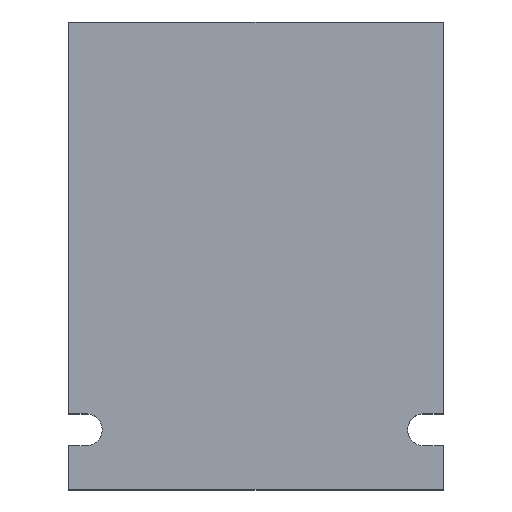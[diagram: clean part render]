
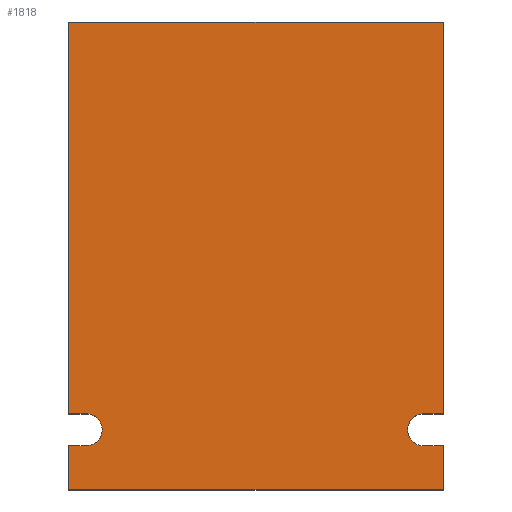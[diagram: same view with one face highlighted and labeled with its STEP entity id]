
A CAD part, top view. The second image highlights one B-rep face of the part: STEP entity #1818.
In plain terms, the highlighted planar face has unit normal (0, 0, 1).
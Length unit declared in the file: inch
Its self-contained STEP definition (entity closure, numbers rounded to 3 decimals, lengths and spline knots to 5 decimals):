
#50=CARTESIAN_POINT('',(1.801,-4.38,0.75));
#51=DIRECTION('',(0.,0.,-1.));
#52=DIRECTION('',(0.,-1.,0.));
#53=AXIS2_PLACEMENT_3D('',#50,#51,#52);
#101=DIRECTION('',(-1.,0.,0.));
#102=VECTOR('',#101,0.211);
#103=CARTESIAN_POINT('',(2.012,-4.208,0.75));
#104=LINE('',#103,#102);
#105=DIRECTION('',(-1.,0.,0.));
#106=VECTOR('',#105,0.211);
#107=CARTESIAN_POINT('',(2.012,-4.552,0.75));
#108=LINE('',#107,#106);
#109=DIRECTION('',(0.,1.,0.));
#110=VECTOR('',#109,0.472);
#111=CARTESIAN_POINT('',(2.012,-5.024,0.75));
#112=LINE('',#111,#110);
#113=DIRECTION('',(1.,0.,0.));
#114=VECTOR('',#113,4.024);
#115=CARTESIAN_POINT('',(-2.012,-5.024,0.75));
#116=LINE('',#115,#114);
#117=DIRECTION('',(0.,-1.,0.));
#118=VECTOR('',#117,0.472);
#119=CARTESIAN_POINT('',(-2.012,-4.552,0.75));
#120=LINE('',#119,#118);
#121=DIRECTION('',(1.,0.,0.));
#122=VECTOR('',#121,0.188);
#123=CARTESIAN_POINT('',(-2.012,-4.552,0.75));
#124=LINE('',#123,#122);
#125=DIRECTION('',(1.,0.,0.));
#126=VECTOR('',#125,0.188);
#127=CARTESIAN_POINT('',(-2.012,-4.208,0.75));
#128=LINE('',#127,#126);
#129=DIRECTION('',(0.,-1.,0.));
#130=VECTOR('',#129,4.208);
#131=CARTESIAN_POINT('',(-2.012,0.,0.75));
#132=LINE('',#131,#130);
#133=DIRECTION('',(-1.,0.,0.));
#134=VECTOR('',#133,4.024);
#135=CARTESIAN_POINT('',(2.012,0.,0.75));
#136=LINE('',#135,#134);
#137=DIRECTION('',(0.,1.,0.));
#138=VECTOR('',#137,4.208);
#139=CARTESIAN_POINT('',(2.012,-4.208,0.75));
#140=LINE('',#139,#138);
#191=CARTESIAN_POINT('',(-1.824,-4.38,0.75));
#192=DIRECTION('',(0.,0.,-1.));
#193=DIRECTION('',(0.,1.,0.));
#194=AXIS2_PLACEMENT_3D('',#191,#192,#193);
#1369=CARTESIAN_POINT('',(-2.012,-5.024,0.75));
#1370=CARTESIAN_POINT('',(2.012,-5.024,0.75));
#1371=VERTEX_POINT('',#1369);
#1372=VERTEX_POINT('',#1370);
#1373=CARTESIAN_POINT('',(2.012,0.,0.75));
#1374=CARTESIAN_POINT('',(-2.012,0.,0.75));
#1375=VERTEX_POINT('',#1373);
#1376=VERTEX_POINT('',#1374);
#1453=CARTESIAN_POINT('',(2.012,-4.208,0.75));
#1454=CARTESIAN_POINT('',(1.801,-4.208,0.75));
#1455=VERTEX_POINT('',#1453);
#1456=VERTEX_POINT('',#1454);
#1457=CARTESIAN_POINT('',(2.012,-4.552,0.75));
#1458=CARTESIAN_POINT('',(1.801,-4.552,0.75));
#1459=VERTEX_POINT('',#1457);
#1460=VERTEX_POINT('',#1458);
#1461=CARTESIAN_POINT('',(-2.012,-4.552,0.75));
#1462=CARTESIAN_POINT('',(-1.824,-4.552,0.75));
#1463=VERTEX_POINT('',#1461);
#1464=VERTEX_POINT('',#1462);
#1465=CARTESIAN_POINT('',(-2.012,-4.208,0.75));
#1466=CARTESIAN_POINT('',(-1.824,-4.208,0.75));
#1467=VERTEX_POINT('',#1465);
#1468=VERTEX_POINT('',#1466);
#1792=CARTESIAN_POINT('',(0.,0.,0.75));
#1793=DIRECTION('',(0.,0.,1.));
#1794=DIRECTION('',(1.,0.,0.));
#1795=AXIS2_PLACEMENT_3D('',#1792,#1793,#1794);
#1796=PLANE('',#1795);
#1797=ORIENTED_EDGE('',*,*,#1711,.T.);
#1798=ORIENTED_EDGE('',*,*,#1726,.F.);
#1799=ORIENTED_EDGE('',*,*,#1740,.F.);
#1800=ORIENTED_EDGE('',*,*,#1787,.F.);
#1802=ORIENTED_EDGE('',*,*,#1801,.F.);
#1804=ORIENTED_EDGE('',*,*,#1803,.F.);
#1806=ORIENTED_EDGE('',*,*,#1805,.T.);
#1808=ORIENTED_EDGE('',*,*,#1807,.F.);
#1810=ORIENTED_EDGE('',*,*,#1809,.F.);
#1812=ORIENTED_EDGE('',*,*,#1811,.F.);
#1814=ORIENTED_EDGE('',*,*,#1813,.F.);
#1815=ORIENTED_EDGE('',*,*,#1752,.F.);
#1816=EDGE_LOOP('',(#1797,#1798,#1799,#1800,#1802,#1804,#1806,#1808,#1810,#1812,
#1814,#1815));
#1817=FACE_OUTER_BOUND('',#1816,.F.);
#1818=ADVANCED_FACE('',(#1817),#1796,.T.);
#54=CIRCLE('',#53,0.172);
#195=CIRCLE('',#194,0.172);
#1711=EDGE_CURVE('',#1455,#1456,#104,.T.);
#1726=EDGE_CURVE('',#1460,#1456,#54,.T.);
#1740=EDGE_CURVE('',#1459,#1460,#108,.T.);
#1752=EDGE_CURVE('',#1455,#1375,#140,.T.);
#1787=EDGE_CURVE('',#1372,#1459,#112,.T.);
#1801=EDGE_CURVE('',#1371,#1372,#116,.T.);
#1803=EDGE_CURVE('',#1463,#1371,#120,.T.);
#1805=EDGE_CURVE('',#1463,#1464,#124,.T.);
#1807=EDGE_CURVE('',#1468,#1464,#195,.T.);
#1809=EDGE_CURVE('',#1467,#1468,#128,.T.);
#1811=EDGE_CURVE('',#1376,#1467,#132,.T.);
#1813=EDGE_CURVE('',#1375,#1376,#136,.T.);
